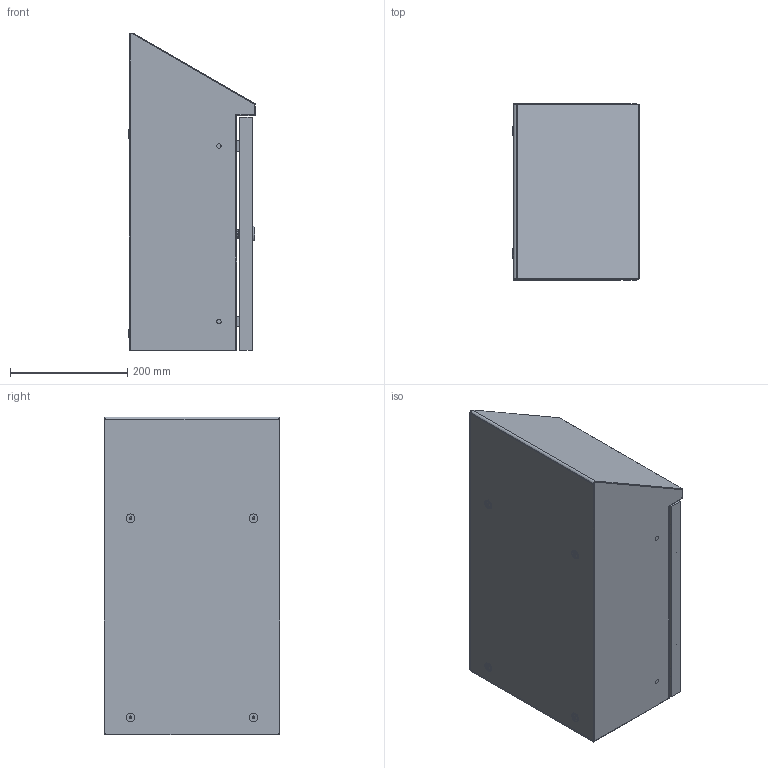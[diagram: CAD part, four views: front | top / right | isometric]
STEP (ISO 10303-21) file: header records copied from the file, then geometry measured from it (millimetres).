
FILE_DESCRIPTION(/* description */ ('Unknown'),/* implementation_level */ '2;1');
FILE_NAME(/* name */ 'CHA03004021',/* time_stamp */ '2024-10-07T08:20:51+02:00',/* author */ ('Unknown'),/* organization */ ('Unknown'),/* preprocessor_version */ 'ST-DEVELOPER v19.4',/* originating_system */ 'Solid Edge',/* authorisation */ 'Unknown');
FILE_SCHEMA (('CONFIG_CONTROL_DESIGN'));
Length unit declared in the file: millimetre
Products named in the file (16): CHA03004021; C000X002.84; C0000002.37; C0000000.04; AE00316.01; AE00601.01; C0000000.05; C0000000.01; AE00891.02; AE00417.01; C000X000.13_oa_0; C000X000.14_oa_1; C0000000.30; C0000000.02; AE00989.09; AE00198.02
Assembly tree (34 placements, depth 4):
  CHA03004021
    C000X002.84
      C0000002.37
      C0000000.04  x4
      AE00316.01  x2
      AE00601.01  x2
      C0000000.05  x4
      C0000000.01  x2
      AE00891.02  x2
      AE00417.01  x4
    C000X000.13_oa_0
      C000X000.14_oa_1
        C0000000.30
      C0000000.02  x2
      AE00989.09
      AE00198.02  x2
      AE00417.01  x2
    AE00198.02  x2
Bounding box: 216 x 300.11 x 543.05 mm (x, y, z)
Volume: 1340014.3 mm3; surface area: 1408465.7 mm2
Topology: 33 solids, 33 shells, 564 faces, 1350 edges, 873 vertices
Faces by surface type: plane 362, cylinder 130, cone 34, torus 28, bspline 10
Full cylindrical faces by diameter (mm): 4 x1, 4.917 x5, 4.918 x2, 5.4 x2, 6 x14, 6.4 x2, 7.5 x6, 8 x4, 8.376 x8, 10 x5, 10.25 x4, 10.5 x4, 11 x2, 13.6 x1, 14 x2, 15 x4, 16 x2, 16.3 x1, 19.5 x1, 28 x1
Entity records: 13209 total; most frequent: CARTESIAN_POINT 2340, DIRECTION 1903, ORIENTED_EDGE 1822, EDGE_CURVE 911, AXIS2_PLACEMENT_3D 642, LINE 619, VECTOR 619, VERTEX_POINT 612
